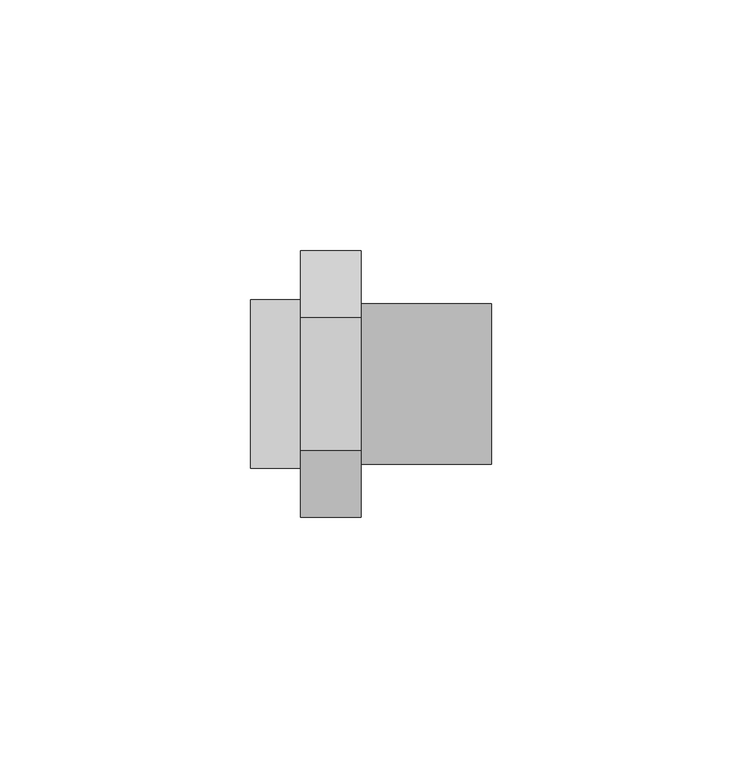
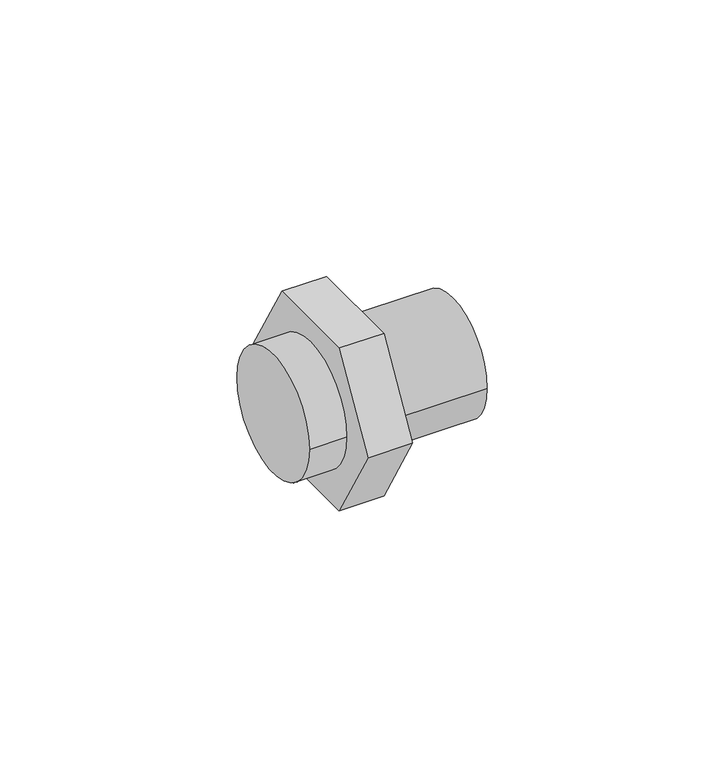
"""IFC4 building model written with IfcOpenShell, lengths in millimetres: pipe fitting geometry, 01101008 : Uniões múltiplas F/M/F."""

import ifcopenshell
import ifcopenshell.guid

model = None  # the IFC model being written
_history = None  # IfcOwnerHistory: only IFC2X3 demands one
_inside = {}  # id of a spatial element -> (the spatial element, [elements in it])
_under = {}  # id of a project, library or spatial element -> (it, [spatial elements below it])
_declared = {}  # id of a project -> (the project, [libraries it declares])
_typed = {}  # id of a type object -> (the type object, [elements of that type])
_made_of = {}  # id of a material, layer set ... -> (it, [elements and type objects made of it])


def new_model(schema):
    """Start an empty IFC model of exactly this schema.

    Asked for "IFC4X3", IfcOpenShell would pick the latest addendum, in which some entities
    have other attributes; the version numbers below select the first issue.
    IFC2X3 requires an IfcOwnerHistory on every rooted entity: one is made here for all.
    """
    global model, _history
    if schema == "IFC4X3":
        model = ifcopenshell.file(schema_version=(4, 3, 0, 0))
    else:
        model = ifcopenshell.file(schema=schema)
    _inside.clear()
    _under.clear()
    _declared.clear()
    _typed.clear()
    _made_of.clear()
    _history = None
    if model.schema == "IFC2X3":
        org = make("IfcOrganization", Name="unknown")
        user = make(
            "IfcPersonAndOrganization",
            ThePerson=make("IfcPerson", FamilyName="unknown"),
            TheOrganization=org,
        )
        app = make(
            "IfcApplication",
            ApplicationDeveloper=org,
            Version="unknown",
            ApplicationFullName="unknown",
            ApplicationIdentifier="unknown",
        )
        _history = make(
            "IfcOwnerHistory",
            OwningUser=user,
            OwningApplication=app,
            ChangeAction="ADDED",
            CreationDate=0,
        )
    return model


def make(cls, **values):
    """One entity of the class cls with the attributes given. An attribute that is None is left unset."""
    return model.create_entity(
        cls, **{name: value for name, value in values.items() if value is not None}
    )


def rooted(cls, **values):
    """An entity with a GlobalId (a new one), such as an element, a storey or a relation."""
    return make(cls, GlobalId=ifcopenshell.guid.new(), OwnerHistory=_history, **values)


def si_unit(unit_type, name, prefix=None):
    """IfcSIUnit, for example si_unit("LENGTHUNIT", "METRE", prefix="MILLI")."""
    return make("IfcSIUnit", UnitType=unit_type, Prefix=prefix, Name=name)


def assignment(units):
    """IfcUnitAssignment: the units of a project."""
    return None if units is None else make("IfcUnitAssignment", Units=units)


def point(xyz):
    """IfcCartesianPoint."""
    return None if xyz is None else make("IfcCartesianPoint", Coordinates=xyz)


def direction(xyz):
    """IfcDirection."""
    return None if xyz is None else make("IfcDirection", DirectionRatios=xyz)


def frame(location, z_axis=None, x_axis=None):
    """IfcAxis2Placement3D, a coordinate frame: its origin and axes. An axis left out is left unset."""
    return make(
        "IfcAxis2Placement3D",
        Location=point(location),
        Axis=direction(z_axis),
        RefDirection=direction(x_axis),
    )


def frame_2d(location, x_axis=None):
    """IfcAxis2Placement2D, a coordinate frame in the plane: its origin and x axis."""
    return make(
        "IfcAxis2Placement2D", Location=point(location), RefDirection=direction(x_axis)
    )


def origin():
    """The frame at (0, 0, 0) with its axes left unset."""
    return frame((0.0, 0.0, 0.0))


def origin_2d():
    """The frame at (0, 0) in the plane with its x axis left unset."""
    return frame_2d((0.0, 0.0))


def place(relative_to, where):
    """IfcLocalPlacement: puts the frame where relative to a parent placement (None: the world)."""
    return make(
        "IfcLocalPlacement", PlacementRelTo=relative_to, RelativePlacement=where
    )


def context(
    kind, dimensions, precision=None, world=None, true_north=None, identifier=None
):
    """IfcGeometricRepresentationContext, for example the 3D "Model" context."""
    return make(
        "IfcGeometricRepresentationContext",
        ContextIdentifier=identifier,
        ContextType=kind,
        CoordinateSpaceDimension=dimensions,
        Precision=precision,
        WorldCoordinateSystem=world,
        TrueNorth=true_north,
    )


def project(units=None, contexts=None):
    """IfcProject with its units and contexts."""
    return rooted(
        "IfcProject",
        Name="project",
        RepresentationContexts=contexts,
        UnitsInContext=assignment(units),
    )


def spatial(cls, under=None, at=None, **own):
    """A site, building, storey or space (cls), placed at a placement, below another one or the project."""
    s = rooted(cls, ObjectPlacement=at, **own)
    if under is not None:
        _under.setdefault(under.id(), (under, []))[1].append(s)
    return s


def polyline(points):
    """IfcPolyline through the points."""
    return make("IfcPolyline", Points=[point(p) for p in points])


def circle_curve(where, radius):
    """IfcCircle in the frame where."""
    return make("IfcCircle", Position=where, Radius=radius)


def trimmed(basis, trim1, trim2, sense, master):
    """IfcTrimmedCurve: the piece of a basis curve between two trims."""
    return make(
        "IfcTrimmedCurve",
        BasisCurve=basis,
        Trim1=trim1,
        Trim2=trim2,
        SenseAgreement=sense,
        MasterRepresentation=master,
    )


def segment(curve, same_sense, transition):
    """IfcCompositeCurveSegment."""
    return make(
        "IfcCompositeCurveSegment",
        Transition=transition,
        SameSense=same_sense,
        ParentCurve=curve,
    )


def composite_curve(segments, self_intersect=None):
    """IfcCompositeCurve: segments joined end to end."""
    return make("IfcCompositeCurve", Segments=segments, SelfIntersect=self_intersect)


def outline(outer, holes=None, kind="AREA"):
    """IfcArbitraryClosedProfileDef: a profile drawn as a closed curve; with holes, ...WithVoids."""
    if holes is None:
        return make("IfcArbitraryClosedProfileDef", ProfileType=kind, OuterCurve=outer)
    return make(
        "IfcArbitraryProfileDefWithVoids",
        ProfileType=kind,
        OuterCurve=outer,
        InnerCurves=holes,
    )


def extrude(swept, where, along, depth):
    """IfcExtrudedAreaSolid: the profile swept, set in the frame where, extruded along a direction by depth."""
    return make(
        "IfcExtrudedAreaSolid",
        SweptArea=swept,
        Position=where,
        ExtrudedDirection=direction(along),
        Depth=depth,
    )


def shape(context_of_items, identifier, shape_type, items):
    """IfcShapeRepresentation: the items that make up one representation, for example the "Body"."""
    return make(
        "IfcShapeRepresentation",
        ContextOfItems=context_of_items,
        RepresentationIdentifier=identifier,
        RepresentationType=shape_type,
        Items=items,
    )


def source(mapping_origin, context_of_items, identifier, shape_type, items):
    """IfcRepresentationMap: a shape defined once, which mapped items show again and again."""
    return make(
        "IfcRepresentationMap",
        MappingOrigin=mapping_origin,
        MappedRepresentation=shape(context_of_items, identifier, shape_type, items),
    )


def transform(
    local_origin,
    x_axis=None,
    y_axis=None,
    z_axis=None,
    scale=None,
    scale2=None,
    scale3=None,
    uniform=True,
):
    """IfcCartesianTransformationOperator3D, or its non-uniform kind. x_axis, y_axis, z_axis: its Axis1, 2, 3."""
    if uniform:
        return make(
            "IfcCartesianTransformationOperator3D",
            Axis1=direction(x_axis),
            Axis2=direction(y_axis),
            LocalOrigin=point(local_origin),
            Scale=scale,
            Axis3=direction(z_axis),
        )
    return make(
        "IfcCartesianTransformationOperator3DnonUniform",
        Axis1=direction(x_axis),
        Axis2=direction(y_axis),
        LocalOrigin=point(local_origin),
        Scale=scale,
        Axis3=direction(z_axis),
        Scale2=scale2,
        Scale3=scale3,
    )


def mapped(mapping_source, mapping_target):
    """IfcMappedItem: shows the shape of a source again, moved by a transform."""
    return make(
        "IfcMappedItem", MappingSource=mapping_source, MappingTarget=mapping_target
    )


def made_of(thing, what):
    """Note that an element or type object is made of a material, layer set ...; save() writes the relation."""
    if what is not None:
        _made_of.setdefault(what.id(), (what, []))[1].append(thing)
    return thing


def element(
    cls,
    number,
    at=None,
    inside=None,
    cuts=None,
    type_object=None,
    material=None,
    context=None,
    identifier="Body",
    shape_type=None,
    held_by="IfcProductDefinitionShape",
    body=None,
    shapes=None,
    **own,
):
    """One element of the class cls, such as IfcWall. Its Tag is "e" and its number.

    at: its placement. inside: the storey or other place that contains it. cuts: it is an
    opening in that element (IfcRelVoidsElement). A single representation is given by context,
    identifier, shape_type and body (its items); several are given by shapes. held_by: the class
    of the entity that holds the representations. save() writes the other relations.
    """
    e = rooted(cls, Tag="e%d" % number, ObjectPlacement=at, **own)
    if body is not None:
        shapes = [shape(context, identifier, shape_type, body)]
    if shapes is not None:
        e.Representation = make(held_by, Representations=shapes)
    if inside is not None:
        _inside.setdefault(inside.id(), (inside, []))[1].append(e)
    if cuts is not None:
        rooted(
            "IfcRelVoidsElement", RelatingBuildingElement=cuts, RelatedOpeningElement=e
        )
    if type_object is not None:
        _typed.setdefault(type_object.id(), (type_object, []))[1].append(e)
    return made_of(e, material)


def aggregate(whole, parts):
    """IfcRelAggregates: a whole, such as a stair, and the parts it consists of."""
    return rooted("IfcRelAggregates", RelatingObject=whole, RelatedObjects=parts)


def save(model, path):
    """Write the relations noted so far, then the file.

    IfcRelAggregates (storeys below a building ...), IfcRelContainedInSpatialStructure (elements
    in a storey), IfcRelDefinesByType, IfcRelAssociatesMaterial and IfcRelDeclares: one each for
    every whole, place, type object, material and project.
    """
    for whole, parts in _under.values():
        aggregate(whole, parts)
    for where, things in _inside.values():
        rooted(
            "IfcRelContainedInSpatialStructure",
            RelatedElements=things,
            RelatingStructure=where,
        )
    for kind, things in _typed.values():
        rooted("IfcRelDefinesByType", RelatedObjects=things, RelatingType=kind)
    for what, things in _made_of.values():
        rooted("IfcRelAssociatesMaterial", RelatedObjects=things, RelatingMaterial=what)
    for by, libraries in _declared.values():
        rooted("IfcRelDeclares", RelatingContext=by, RelatedDefinitions=libraries)
    model.write(path)


def pipe_fitting_c5ae1757(model_context):
    return source(origin(), model_context, "Body", "SweptSolid", [
        extrude(outline(composite_curve([segment(trimmed(circle_curve(origin_2d(), 16.8), [point((16.8, 0.0))], [point((-16.8, 0.0))], False, "CARTESIAN"), True, "CONTINUOUS"), segment(trimmed(circle_curve(origin_2d(), 16.8), [point((-16.8, 0.0))], [point((16.8, 0.0))], False, "CARTESIAN"), True, "CONTINUOUS")], self_intersect=False)), frame((0.0, 0.0, 0.0), z_axis=(1.0, 0.0, 0.0), x_axis=(0.0, 1.0, 0.0)), (0.0, 0.0, 1.0), 10.0),
        extrude(outline(polyline([(-13.2790562, 23.0), (13.2790562, 23.0), (26.5581124, 0.0), (13.2790562, -23.0), (-13.2790562, -23.0), (-26.5581124, 0.0), (-13.2790562, 23.0)])), frame((10.0, 0.0, 0.0), z_axis=(1.0, 0.0, 0.0), x_axis=(0.0, 1.0, 0.0)), (0.0, 0.0, 1.0), 12.0),
        extrude(outline(composite_curve([segment(trimmed(circle_curve(origin_2d(), 16.0), [point((-16.0, 0.0))], [point((16.0, 0.0))], False, "CARTESIAN"), True, "CONTINUOUS"), segment(trimmed(circle_curve(origin_2d(), 16.0), [point((16.0, 0.0))], [point((-16.0, 0.0))], False, "CARTESIAN"), True, "CONTINUOUS")], self_intersect=False)), frame((22.0, 0.0, 0.0), z_axis=(1.0, 0.0, 0.0), x_axis=(0.0, 1.0, 0.0)), (0.0, 0.0, 1.0), 26.0),
    ])


if __name__ == "__main__":
    model = new_model("IFC4")
    model_context = context("Model", 3, world=origin())
    ifc_project = project(units=[si_unit("LENGTHUNIT", "METRE", prefix="MILLI")], contexts=[model_context])
    site = spatial("IfcSite", under=ifc_project)
    building = spatial("IfcBuilding", under=site)
    placement = place(None, origin())
    pipe_fitting_shape = pipe_fitting_c5ae1757(model_context)
    element("IfcPipeFitting", 1, ObjectType="01101008 : Uniões múltiplas F/M/F", at=placement, inside=building, context=model_context, shape_type="MappedRepresentation", body=[
        mapped(pipe_fitting_shape, transform((0.0, 0.0, 0.0), x_axis=(1.0, 0.0, 0.0), y_axis=(0.0, 1.0, 0.0), z_axis=(0.0, 0.0, 1.0))),
    ])
    save(model, "model.ifc")
